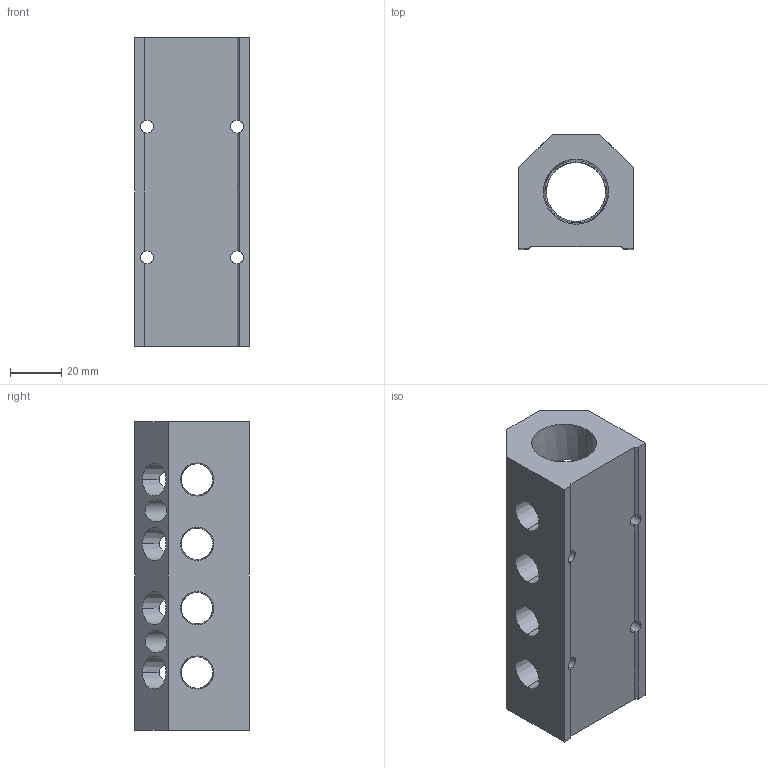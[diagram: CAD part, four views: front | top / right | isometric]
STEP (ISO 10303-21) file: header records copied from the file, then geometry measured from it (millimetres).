
FILE_DESCRIPTION (( 'STEP AP214' ), '1' );
FILE_NAME ('ALM4ABCDE-N4N12-120B.step', '2022-02-06T14:10:25', ( '' ), ( '' ), 'SwSTEP 2.0', 'SolidWorks 2020', '' );
FILE_SCHEMA (( 'AUTOMOTIVE_DESIGN' ));
Length unit declared in the file: millimetre
Products named in the file (1): ALM4ABCDE-N4N12-120B
Bounding box: 44.5 x 44.5 x 120 mm (x, y, z)
Volume: 129710.4 mm3; surface area: 37024.3 mm2
Topology: 1 solids, 1 shells, 405 faces, 1153 edges, 766 vertices
Faces by surface type: plane 253, bspline 60, cone 54, cylinder 38
Entity records: 19141 total; most frequent: CARTESIAN_POINT 8693, ORIENTED_EDGE 2306, DIRECTION 1633, EDGE_CURVE 1153, VERTEX_POINT 766, LINE 725, VECTOR 725, EDGE_LOOP 471
